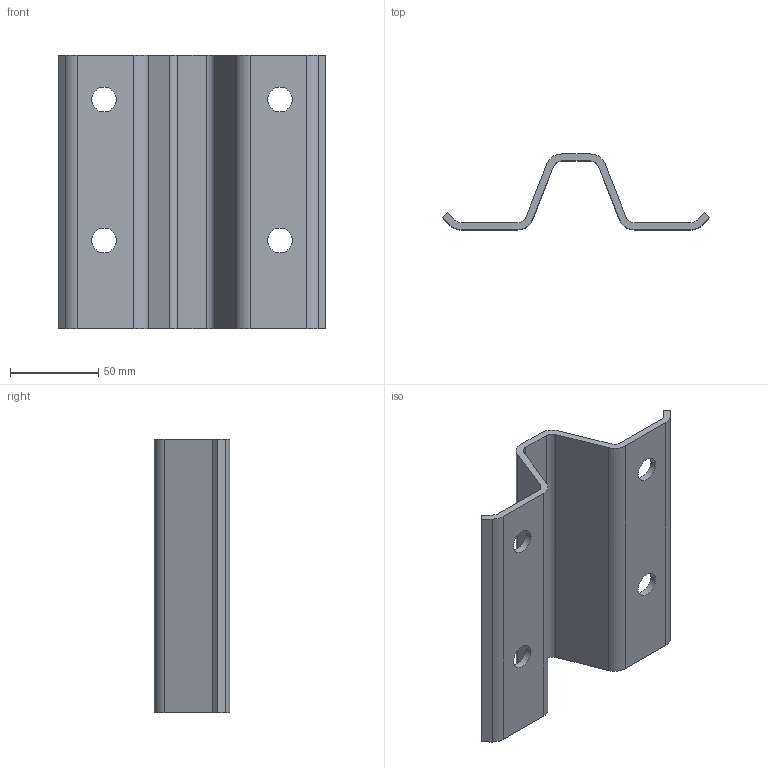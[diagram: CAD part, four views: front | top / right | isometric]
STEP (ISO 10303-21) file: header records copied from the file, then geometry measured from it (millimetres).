
FILE_DESCRIPTION(/* description */ (''),/* implementation_level */ '2;1');
FILE_NAME(/* name */ 'ZC170.stp',/* time_stamp */ '2023-07-03T11:18:50+02:00',/* author */ ('woriedl'),/* organization */ (''),/* preprocessor_version */ 'ST-DEVELOPER v19.2',/* originating_system */ 'AutoCAD Mechanical',/* authorisation */ '');
FILE_SCHEMA (('AUTOMOTIVE_DESIGN { 1 0 10303 214 3 1 1 }'));
Length unit declared in the file: centimetre
Products named in the file (1): Product
Bounding box: 151.72 x 43 x 155 mm (x, y, z)
Volume: 122668 mm3; surface area: 64892.3 mm2
Topology: 1 solids, 1 shells, 34 faces, 96 edges, 64 vertices
Faces by surface type: plane 18, cylinder 16
Full cylindrical faces by diameter (mm): 14 x4
Entity records: 1151 total; most frequent: DIRECTION 198, CARTESIAN_POINT 195, ORIENTED_EDGE 192, EDGE_CURVE 96, AXIS2_PLACEMENT_3D 67, LINE 64, VECTOR 64, VERTEX_POINT 64
